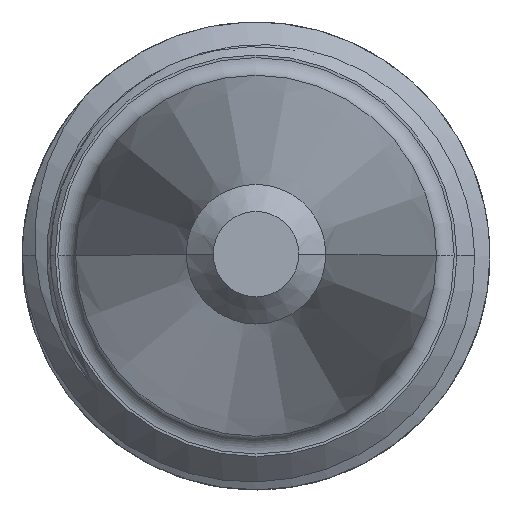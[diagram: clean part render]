
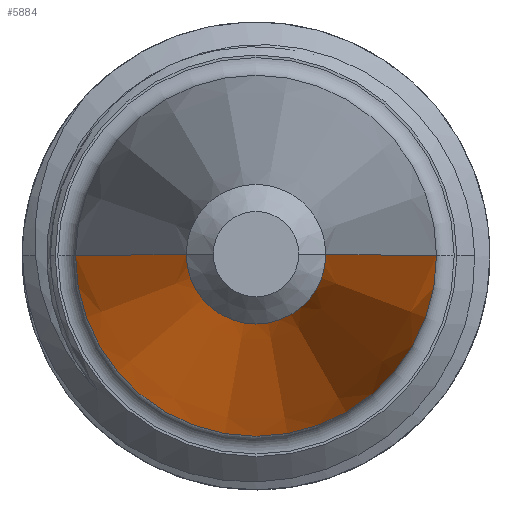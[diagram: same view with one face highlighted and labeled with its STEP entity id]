
A CAD part, top view. The second image highlights one B-rep face of the part: STEP entity #5884.
In plain terms, the highlighted conical face has half-angle 7 degrees and reference radius 3.859 mm.
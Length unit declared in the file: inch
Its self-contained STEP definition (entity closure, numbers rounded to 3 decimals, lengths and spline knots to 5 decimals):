
#83 = CARTESIAN_POINT ( 'NONE',  ( -0.05872, 0., 0.9632 ) ) ;
#916 = ORIENTED_EDGE ( 'NONE', *, *, #17425, .T. ) ;
#1151 = CARTESIAN_POINT ( 'NONE',  ( 0.15193, 0., 0.20412 ) ) ;
#1717 = VERTEX_POINT ( 'NONE', #17450 ) ;
#1961 = EDGE_LOOP ( 'NONE', ( #3168, #9867, #916, #12106 ) ) ;
#2587 = CIRCLE ( 'NONE', #5233, 0.05872 ) ;
#2698 = VERTEX_POINT ( 'NONE', #6608 ) ;
#2965 = DIRECTION ( 'NONE',  ( -1., 0., 0. ) ) ;
#3062 = AXIS2_PLACEMENT_3D ( 'NONE', #12270, #10833, #2965 ) ;
#3168 = ORIENTED_EDGE ( 'NONE', *, *, #19596, .F. ) ;
#3812 = VERTEX_POINT ( 'NONE', #83 ) ;
#5233 = AXIS2_PLACEMENT_3D ( 'NONE', #16135, #19539, #14672 ) ;
#5884 = ADVANCED_FACE ( 'NONE', ( #15485 ), #7331, .T. ) ;
#6608 = CARTESIAN_POINT ( 'NONE',  ( -0.15193, 0., 0.20412 ) ) ;
#7180 = DIRECTION ( 'NONE',  ( -0.122, 0., -0.993 ) ) ;
#7331 = CONICAL_SURFACE ( 'NONE', #3062, 0.15193, 0.122 ) ;
#9061 = VECTOR ( 'NONE', #15756, 39.37008 ) ;
#9092 = CIRCLE ( 'NONE', #13064, 0.15193 ) ;
#9331 = LINE ( 'NONE', #1151, #9061 ) ;
#9429 = DIRECTION ( 'NONE',  ( 0., 0., 1. ) ) ;
#9867 = ORIENTED_EDGE ( 'NONE', *, *, #15883, .F. ) ;
#10833 = DIRECTION ( 'NONE',  ( 0., 0., -1. ) ) ;
#11827 = EDGE_CURVE ( 'NONE', #2698, #15556, #9092, .T. ) ;
#12106 = ORIENTED_EDGE ( 'NONE', *, *, #11827, .T. ) ;
#12270 = CARTESIAN_POINT ( 'NONE',  ( 0., 0., 0.20412 ) ) ;
#12528 = CARTESIAN_POINT ( 'NONE',  ( 0., 0., 0.20412 ) ) ;
#13064 = AXIS2_PLACEMENT_3D ( 'NONE', #12528, #9429, #13985 ) ;
#13985 = DIRECTION ( 'NONE',  ( 1., 0., 0. ) ) ;
#14672 = DIRECTION ( 'NONE',  ( 1., 0., 0. ) ) ;
#15169 = CARTESIAN_POINT ( 'NONE',  ( -0.15193, 0., 0.20412 ) ) ;
#15485 = FACE_OUTER_BOUND ( 'NONE', #1961, .T. ) ;
#15556 = VERTEX_POINT ( 'NONE', #15741 ) ;
#15741 = CARTESIAN_POINT ( 'NONE',  ( 0.15193, 0., 0.20412 ) ) ;
#15756 = DIRECTION ( 'NONE',  ( 0.122, 0., -0.993 ) ) ;
#15883 = EDGE_CURVE ( 'NONE', #3812, #1717, #2587, .T. ) ;
#16135 = CARTESIAN_POINT ( 'NONE',  ( 0., 0., 0.9632 ) ) ;
#16837 = LINE ( 'NONE', #15169, #18259 ) ;
#17425 = EDGE_CURVE ( 'NONE', #3812, #2698, #16837, .T. ) ;
#17450 = CARTESIAN_POINT ( 'NONE',  ( 0.05872, 0., 0.9632 ) ) ;
#18259 = VECTOR ( 'NONE', #7180, 39.37008 ) ;
#19539 = DIRECTION ( 'NONE',  ( 0., 0., 1. ) ) ;
#19596 = EDGE_CURVE ( 'NONE', #1717, #15556, #9331, .T. ) ;
